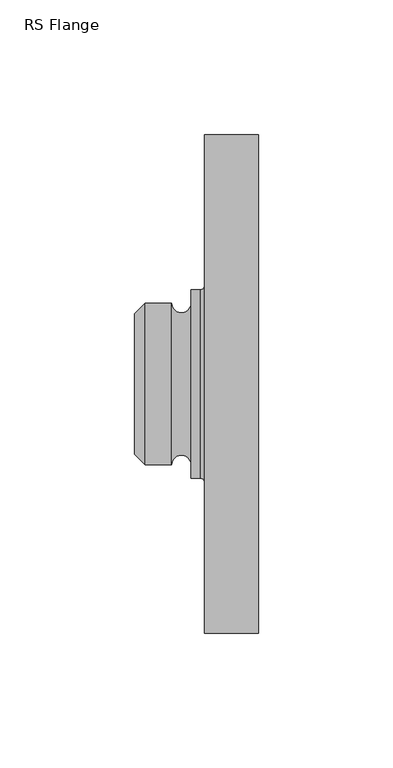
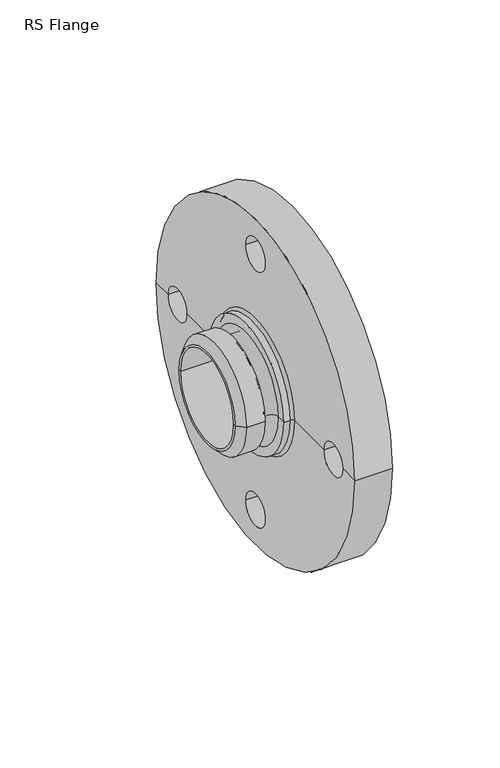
"""IFC4 building model written with IfcOpenShell, lengths in millimetres: pipe fitting geometry, RS Flange : Superpipe Flange Adapter - RS2 DN65 (PN16)."""

from ifc_helpers import new_model, si_unit, point, frame, origin, place, context, project, spatial, polyline, circle_curve, ellipse_curve, trimmed, source, transform, mapped, element, save
from ifc_brep_helpers import plane_surface, cylinder_surface, revolved_surface, advanced_brep


def rs_flange_21cca742(model_context):
    return source(origin(), model_context, "Body", "AdvancedBrep", [
        advanced_brep(
        [(0.0, -24.8, 0.0), (0.0, 24.8, 0.0), (0.0, 26.0, 0.0), (0.0, -26.0, 0.0), (31.0748159, -24.8, 0.0), (31.0748159, 24.8, 0.0), (46.0, -92.5, 0.0), (46.0, 92.5, 0.0), (46.0, 81.5, 0.0), (46.0, 63.5, 0.0), (46.0, 24.8, 0.0), (46.0, -24.8, 0.0), (46.0, -63.5, 0.0), (46.0, -81.5, 0.0), (46.0, 9.0, -72.5), (46.0, -9.0, -72.5), (46.0, 9.0, 72.5), (46.0, -9.0, 72.5), (26.0, -92.5, 0.0), (26.0, 92.5, 0.0), (26.0, -81.5, 0.0), (26.0, -63.5, 0.0), (26.0, -36.5, 0.0), (26.0, 36.5, 0.0), (26.0, 63.5, 0.0), (26.0, 81.5, 0.0), (26.0, -9.0, -72.5), (26.0, 9.0, -72.5), (26.0, -9.0, 72.5), (26.0, 9.0, 72.5), (24.5, -35.0, 0.0), (24.5, 35.0, 0.0), (21.0, -35.0, 0.0), (21.0, 35.0, 0.0), (21.0, -30.0, 0.0), (21.0, 30.0, 0.0), (13.8, -30.0, 0.0), (13.8, 30.0, 0.0), (4.0, -30.0, 0.0), (4.0, 30.0, 0.0)],
        [
            (0, 1, circle_curve(frame((0.0, 0.0, 0.0), z_axis=(1.0, 0.0, 0.0), x_axis=(0.0, 1.0, 0.0)), 24.8)),
            (1, 2),
            (2, 3, circle_curve(frame((0.0, 0.0, 0.0), z_axis=(-1.0, 0.0, 0.0), x_axis=(0.0, 1.0, 0.0)), 26.0)),
            (3, 0),
            (1, 0, circle_curve(frame((0.0, 0.0, 0.0), z_axis=(1.0, 0.0, 0.0), x_axis=(0.0, 1.0, 0.0)), 24.8)),
            (3, 2, circle_curve(frame((0.0, 0.0, 0.0), z_axis=(-1.0, 0.0, 0.0), x_axis=(0.0, 1.0, 0.0)), 26.0)),
            (0, 4),
            (4, 5, circle_curve(frame((31.0748159, 0.0, 0.0), z_axis=(1.0, 0.0, 0.0), x_axis=(0.0, 1.0, 0.0)), 24.8)),
            (5, 1),
            (5, 4, circle_curve(frame((31.0748159, 0.0, 0.0), z_axis=(1.0, 0.0, 0.0), x_axis=(0.0, 1.0, 0.0)), 24.8)),
            (6, 7, circle_curve(frame((46.0, 0.0, 0.0), z_axis=(1.0, 0.0, 0.0), x_axis=(0.0, 1.0, 0.0)), 92.5)),
            (7, 8),
            (8, 9, circle_curve(frame((46.0, 72.5, 0.0), z_axis=(-1.0, 0.0, 0.0), x_axis=(0.0, -1.0, 0.0)), 9.0)),
            (9, 10),
            (10, 11, circle_curve(frame((46.0, 0.0, 0.0), z_axis=(-1.0, 0.0, 0.0), x_axis=(0.0, 1.0, 0.0)), 24.8)),
            (11, 12),
            (12, 13, circle_curve(frame((46.0, -72.5, 0.0), z_axis=(-1.0, 0.0, 0.0), x_axis=(0.0, -1.0, 0.0)), 9.0)),
            (13, 6),
            (14, 15, circle_curve(frame((46.0, 0.0, -72.5), z_axis=(-1.0, 0.0, 0.0), x_axis=(0.0, -1.0, 0.0)), 9.0)),
            (15, 14, circle_curve(frame((46.0, 0.0, -72.5), z_axis=(-1.0, 0.0, 0.0), x_axis=(0.0, -1.0, 0.0)), 9.0)),
            (7, 6, circle_curve(frame((46.0, 0.0, 0.0), z_axis=(1.0, 0.0, 0.0), x_axis=(0.0, 1.0, 0.0)), 92.5)),
            (13, 12, circle_curve(frame((46.0, -72.5, 0.0), z_axis=(-1.0, 0.0, 0.0), x_axis=(0.0, -1.0, 0.0)), 9.0)),
            (11, 10, circle_curve(frame((46.0, 0.0, 0.0), z_axis=(-1.0, 0.0, 0.0), x_axis=(0.0, 1.0, 0.0)), 24.8)),
            (9, 8, circle_curve(frame((46.0, 72.5, 0.0), z_axis=(-1.0, 0.0, 0.0), x_axis=(0.0, -1.0, 0.0)), 9.0)),
            (16, 17, circle_curve(frame((46.0, 0.0, 72.5), z_axis=(-1.0, 0.0, 0.0), x_axis=(0.0, -1.0, 0.0)), 9.0)),
            (17, 16, circle_curve(frame((46.0, 0.0, 72.5), z_axis=(-1.0, 0.0, 0.0), x_axis=(0.0, -1.0, 0.0)), 9.0)),
            (6, 18),
            (18, 19, circle_curve(frame((26.0, 0.0, 0.0), z_axis=(1.0, 0.0, 0.0), x_axis=(0.0, 1.0, 0.0)), 92.5)),
            (19, 7),
            (19, 18, circle_curve(frame((26.0, 0.0, 0.0), z_axis=(1.0, 0.0, 0.0), x_axis=(0.0, 1.0, 0.0)), 92.5)),
            (18, 20),
            (20, 21, circle_curve(frame((26.0, -72.5, 0.0), z_axis=(1.0, 0.0, 0.0), x_axis=(0.0, -1.0, 0.0)), 9.0)),
            (21, 22),
            (22, 23, circle_curve(frame((26.0, 0.0, 0.0), z_axis=(1.0, 0.0, 0.0), x_axis=(0.0, 1.0, 0.0)), 36.5)),
            (23, 24),
            (24, 25, circle_curve(frame((26.0, 72.5, 0.0), z_axis=(1.0, 0.0, 0.0), x_axis=(0.0, -1.0, 0.0)), 9.0)),
            (25, 19),
            (26, 27, circle_curve(frame((26.0, 0.0, -72.5), z_axis=(1.0, 0.0, 0.0), x_axis=(0.0, -1.0, 0.0)), 9.0)),
            (27, 26, circle_curve(frame((26.0, 0.0, -72.5), z_axis=(1.0, 0.0, 0.0), x_axis=(0.0, -1.0, 0.0)), 9.0)),
            (25, 24, circle_curve(frame((26.0, 72.5, 0.0), z_axis=(1.0, 0.0, 0.0), x_axis=(0.0, -1.0, 0.0)), 9.0)),
            (23, 22, circle_curve(frame((26.0, 0.0, 0.0), z_axis=(1.0, 0.0, 0.0), x_axis=(0.0, 1.0, 0.0)), 36.5)),
            (21, 20, circle_curve(frame((26.0, -72.5, 0.0), z_axis=(1.0, 0.0, 0.0), x_axis=(0.0, -1.0, 0.0)), 9.0)),
            (28, 29, circle_curve(frame((26.0, 0.0, 72.5), z_axis=(1.0, 0.0, 0.0), x_axis=(0.0, -1.0, 0.0)), 9.0)),
            (29, 28, circle_curve(frame((26.0, 0.0, 72.5), z_axis=(1.0, 0.0, 0.0), x_axis=(0.0, -1.0, 0.0)), 9.0)),
            (22, 30, circle_curve(frame((24.5, -36.5, 0.0), z_axis=(0.0, 0.0, 1.0), x_axis=(1.0, 0.0, 0.0)), 1.5)),
            (30, 31, circle_curve(frame((24.5, 0.0, 0.0), z_axis=(1.0, 0.0, 0.0), x_axis=(0.0, 1.0, 0.0)), 35.0)),
            (31, 23, circle_curve(frame((24.5, 36.5, 0.0), z_axis=(0.0, 0.0, 1.0), x_axis=(1.0, 0.0, 0.0)), 1.5)),
            (31, 30, circle_curve(frame((24.5, 0.0, 0.0), z_axis=(1.0, 0.0, 0.0), x_axis=(0.0, 1.0, 0.0)), 35.0)),
            (30, 32),
            (32, 33, circle_curve(frame((21.0, 0.0, 0.0), z_axis=(1.0, 0.0, 0.0), x_axis=(0.0, 1.0, 0.0)), 35.0)),
            (33, 31),
            (33, 32, circle_curve(frame((21.0, 0.0, 0.0), z_axis=(1.0, 0.0, 0.0), x_axis=(0.0, 1.0, 0.0)), 35.0)),
            (32, 34),
            (34, 35, circle_curve(frame((21.0, 0.0, 0.0), z_axis=(1.0, 0.0, 0.0), x_axis=(0.0, 1.0, 0.0)), 30.0)),
            (35, 33),
            (35, 34, circle_curve(frame((21.0, 0.0, 0.0), z_axis=(1.0, 0.0, 0.0), x_axis=(0.0, 1.0, 0.0)), 30.0)),
            (34, 36, circle_curve(frame((17.4, -30.0, 0.0), z_axis=(0.0, 0.0, 1.0), x_axis=(1.0, 0.0, 0.0)), 3.6)),
            (36, 37, circle_curve(frame((13.8, 0.0, 0.0), z_axis=(1.0, 0.0, 0.0), x_axis=(0.0, 1.0, 0.0)), 30.0)),
            (37, 35, circle_curve(frame((17.4, 30.0, 0.0), z_axis=(0.0, 0.0, 1.0), x_axis=(1.0, 0.0, 0.0)), 3.6)),
            (37, 36, circle_curve(frame((13.8, 0.0, 0.0), z_axis=(1.0, 0.0, 0.0), x_axis=(0.0, 1.0, 0.0)), 30.0)),
            (36, 38),
            (38, 39, circle_curve(frame((4.0, 0.0, 0.0), z_axis=(1.0, 0.0, 0.0), x_axis=(0.0, 1.0, 0.0)), 30.0)),
            (39, 37),
            (39, 38, circle_curve(frame((4.0, 0.0, 0.0), z_axis=(1.0, 0.0, 0.0), x_axis=(0.0, 1.0, 0.0)), 30.0)),
            (2, 39),
            (38, 3),
            (20, 13),
            (12, 21),
            (28, 17),
            (16, 29),
            (24, 9),
            (8, 25),
            (26, 15),
            (14, 27),
            (4, 11),
            (10, 5),
        ],
        [
            plane_surface(frame((0.0, 0.0, 0.0), z_axis=(-1.0, 0.0, 0.0), x_axis=(0.0, 1.0, 0.0))),
            revolved_surface(polyline([(0.0, 24.8, 0.0), (31.074815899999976, 24.8, 0.0)]), (2000.0, 0.0, 0.0), (-1.0, 0.0, 0.0)),
            plane_surface(frame((46.0, 0.0, 0.0), z_axis=(1.0, 0.0, 0.0), x_axis=(0.0, 1.0, 0.0))),
            cylinder_surface(frame((2000.0, 0.0, 0.0), z_axis=(-1.0, 0.0, 0.0), x_axis=(0.0, 1.0, 0.0)), 92.5),
            plane_surface(frame((26.0, 0.0, 0.0), z_axis=(-1.0, 0.0, 0.0), x_axis=(0.0, 1.0, 0.0))),
            revolved_surface(trimmed(ellipse_curve(frame((24.5, 36.5, 0.0), z_axis=(0.0, 0.0, -1.0), x_axis=(1.0, 0.0, 0.0)), 1.5, 1.5), [point((26.0, 36.5, 0.0))], [point((24.5, 35.0, 0.0))], True, "CARTESIAN"), (2000.0, 0.0, 0.0), (-1.0, 0.0, 0.0)),
            cylinder_surface(frame((2000.0, 0.0, 0.0), z_axis=(-1.0, 0.0, 0.0), x_axis=(0.0, 1.0, 0.0)), 35.0),
            plane_surface(frame((21.0, 0.0, 0.0), z_axis=(-1.0, 0.0, 0.0), x_axis=(0.0, 1.0, 0.0))),
            revolved_surface(trimmed(ellipse_curve(frame((17.4, 30.0, 0.0), z_axis=(0.0, 0.0, -1.0), x_axis=(1.0, 0.0, 0.0)), 3.6, 3.6), [point((21.0, 30.0, 0.0))], [point((13.8, 30.0, 0.0))], True, "CARTESIAN"), (2000.0, 0.0, 0.0), (-1.0, 0.0, 0.0)),
            cylinder_surface(frame((2000.0, 0.0, 0.0), z_axis=(-1.0, 0.0, 0.0), x_axis=(0.0, 1.0, 0.0)), 30.0),
            revolved_surface(polyline([(4.0, 30.0, 0.0), (0.0, 26.0, 0.0)]), (2000.0, 0.0, 0.0), (-1.0, 0.0, 0.0)),
            revolved_surface(polyline([(26.0, -81.5, 0.0), (46.0, -81.5, 0.0)]), (46.0, -72.5, 0.0), (-1.0, 0.0, 0.0)),
            revolved_surface(polyline([(26.0, -9.0, 72.5), (46.0, -9.0, 72.5)]), (46.0, 0.0, 72.5), (-1.0, 0.0, 0.0)),
            revolved_surface(polyline([(26.0, 63.5, 0.0), (46.0, 63.5, 0.0)]), (46.0, 72.5, 0.0), (-1.0, 0.0, 0.0)),
            revolved_surface(polyline([(26.0, -9.0, -72.5), (46.0, -9.0, -72.5)]), (46.0, 0.0, -72.5), (-1.0, 0.0, 0.0)),
            revolved_surface(polyline([(31.074815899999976, 24.8, 0.0), (46.0, 24.8, 0.0)]), (2000.0, 0.0, 0.0), (-1.0, 0.0, 0.0)),
        ],
        [
            (0, [[1, 2, 3, 4]]),
            (0, [[-2, 5, -4, 6]]),
            (1, [[-1, 7, 8, 9]]),
            (1, [[-5, -9, 10, -7]]),
            (2, [[11, 12, 13, 14, 15, 16, 17, 18], [19, 20]]),
            (2, [[21, -18, 22, -16, 23, -14, 24, -12], [25, 26]]),
            (3, [[-11, 27, 28, 29]]),
            (3, [[-21, -29, 30, -27]]),
            (4, [[-28, 31, 32, 33, 34, 35, 36, 37], [38, 39]]),
            (4, [[-30, -37, 40, -35, 41, -33, 42, -31], [43, 44]]),
            (5, [[-34, 45, 46, 47]]),
            (5, [[-41, -47, 48, -45]]),
            (6, [[-46, 49, 50, 51]]),
            (6, [[-48, -51, 52, -49]]),
            (7, [[-50, 53, 54, 55]]),
            (7, [[-52, -55, 56, -53]]),
            (8, [[-54, 57, 58, 59]]),
            (8, [[-56, -59, 60, -57]]),
            (9, [[-58, 61, 62, 63]]),
            (9, [[-60, -63, 64, -61]]),
            (10, [[-3, 65, -62, 66]]),
            (10, [[-6, -66, -64, -65]]),
            (11, [[67, -17, 68, -32]]),
            (11, [[-67, -42, -68, -22]]),
            (12, [[69, -25, 70, -43]]),
            (12, [[-69, -44, -70, -26]]),
            (13, [[71, -13, 72, -36]]),
            (13, [[-71, -40, -72, -24]]),
            (14, [[73, -19, 74, -38]]),
            (14, [[-73, -39, -74, -20]]),
            (15, [[-8, 75, -15, 76]]),
            (15, [[-10, -76, -23, -75]]),
        ],
    ),
    ])


if __name__ == "__main__":
    model = new_model("IFC4")
    model_context = context("Model", 3, world=origin())
    ifc_project = project(units=[si_unit("LENGTHUNIT", "METRE", prefix="MILLI")], contexts=[model_context])
    site = spatial("IfcSite", under=ifc_project)
    building = spatial("IfcBuilding", under=site)
    placement = place(None, origin())
    rs_flange_shape = rs_flange_21cca742(model_context)
    element("IfcPipeFitting", 1, ObjectType="RS Flange : Superpipe Flange Adapter - RS2 DN65 (PN16)", at=placement, inside=building, context=model_context, shape_type="MappedRepresentation", body=[
        mapped(rs_flange_shape, transform((0.0, 0.0, 0.0), x_axis=(1.0, 0.0, 0.0), y_axis=(0.0, 1.0, 0.0), z_axis=(0.0, 0.0, 1.0))),
    ])
    save(model, "model.ifc")
